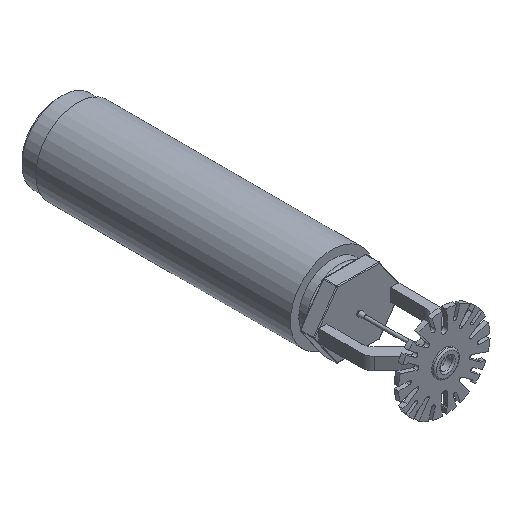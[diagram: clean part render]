
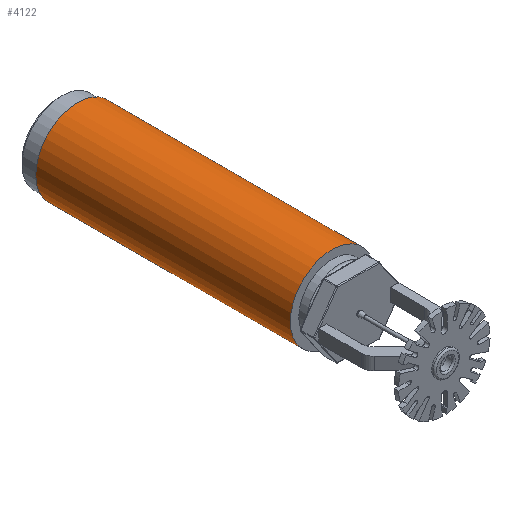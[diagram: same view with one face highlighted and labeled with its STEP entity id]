
A CAD part, isometric view. The second image highlights one B-rep face of the part: STEP entity #4122.
In plain terms, the highlighted cylindrical face has radius 16.701 mm (diameter 33.401 mm), a full revolution.
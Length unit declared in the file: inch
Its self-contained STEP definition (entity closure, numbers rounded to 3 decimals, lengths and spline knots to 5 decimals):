
#92=LINE('',#6148,#435);
#435=VECTOR('',#4912,0.6575);
#778=CYLINDRICAL_SURFACE('',#4422,0.6575);
#882=FACE_OUTER_BOUND('',#1111,.T.);
#1111=EDGE_LOOP('',(#2603,#2604,#2605,#2606,#2607,#2608));
#1349=CIRCLE('',#4414,0.6575);
#1350=CIRCLE('',#4415,0.6575);
#1353=CIRCLE('',#4420,0.6575);
#1354=CIRCLE('',#4421,0.6575);
#1575=VERTEX_POINT('',#6132);
#1576=VERTEX_POINT('',#6133);
#1579=VERTEX_POINT('',#6143);
#1580=VERTEX_POINT('',#6144);
#1971=EDGE_CURVE('',#1575,#1576,#1349,.T.);
#1972=EDGE_CURVE('',#1576,#1575,#1350,.T.);
#1976=EDGE_CURVE('',#1579,#1580,#1353,.T.);
#1977=EDGE_CURVE('',#1580,#1579,#1354,.T.);
#1978=EDGE_CURVE('',#1576,#1580,#92,.T.);
#2603=ORIENTED_EDGE('',*,*,#1971,.F.);
#2604=ORIENTED_EDGE('',*,*,#1972,.F.);
#2605=ORIENTED_EDGE('',*,*,#1978,.T.);
#2606=ORIENTED_EDGE('',*,*,#1977,.T.);
#2607=ORIENTED_EDGE('',*,*,#1976,.T.);
#2608=ORIENTED_EDGE('',*,*,#1978,.F.);
#4122=ADVANCED_FACE('',(#882),#778,.T.);
#4414=AXIS2_PLACEMENT_3D('',#6134,#4893,#4894);
#4415=AXIS2_PLACEMENT_3D('',#6135,#4895,#4896);
#4420=AXIS2_PLACEMENT_3D('',#6145,#4906,#4907);
#4421=AXIS2_PLACEMENT_3D('',#6146,#4908,#4909);
#4422=AXIS2_PLACEMENT_3D('',#6147,#4910,#4911);
#4893=DIRECTION('center_axis',(0.,-1.,0.));
#4894=DIRECTION('ref_axis',(1.,0.,0.));
#4895=DIRECTION('center_axis',(0.,-1.,0.));
#4896=DIRECTION('ref_axis',(1.,0.,0.));
#4906=DIRECTION('center_axis',(0.,-1.,0.));
#4907=DIRECTION('ref_axis',(1.,0.,0.));
#4908=DIRECTION('center_axis',(0.,-1.,0.));
#4909=DIRECTION('ref_axis',(1.,0.,0.));
#4910=DIRECTION('center_axis',(0.,-1.,0.));
#4911=DIRECTION('ref_axis',(-1.,0.,0.));
#4912=DIRECTION('',(0.,1.,0.));
#6132=CARTESIAN_POINT('',(-0.6575,1.8125,0.));
#6133=CARTESIAN_POINT('',(0.6575,1.8125,0.));
#6134=CARTESIAN_POINT('Origin',(0.,1.8125,0.));
#6135=CARTESIAN_POINT('Origin',(0.,1.8125,0.));
#6143=CARTESIAN_POINT('',(-0.6575,5.8125,0.));
#6144=CARTESIAN_POINT('',(0.6575,5.8125,0.));
#6145=CARTESIAN_POINT('Origin',(0.,5.8125,0.));
#6146=CARTESIAN_POINT('Origin',(0.,5.8125,0.));
#6147=CARTESIAN_POINT('Origin',(0.,3.8125,0.));
#6148=CARTESIAN_POINT('',(0.6575,3.8125,0.));
